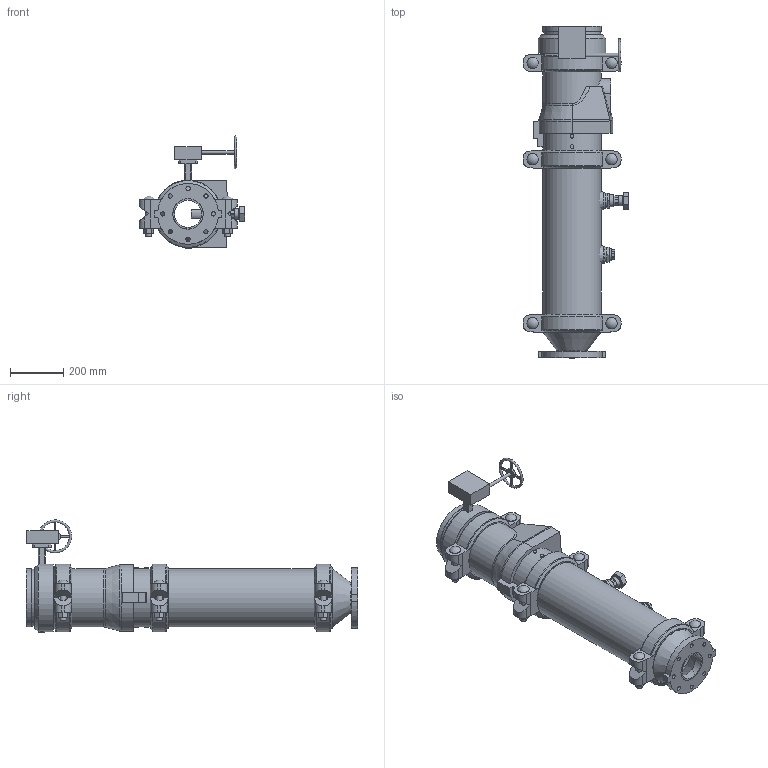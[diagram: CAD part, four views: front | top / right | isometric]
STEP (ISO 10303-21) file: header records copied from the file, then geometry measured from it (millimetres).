
FILE_DESCRIPTION(/* description */ ('VIC DVI PUMP DROP VERT S/380 (OGSxFLG) (S/924-1.25)','CAx-IF Rec.Pracs.---Representation and Presentation of Product Manufacturing Information (PMI)---4.0---2014-10-13'),/* implementation_level */ '2;1');
FILE_NAME(/* name */ 'C:\Users\Public\Documents\Victaulic.Temp\A765\Victaulic_IPS_Vertical DVI_CL 150_Series 380 (OGSxFLG)_924 (1.25)_08.0x04.0 (200x100).stp',/* time_stamp */ '2022-07-25T11:13:12+02:00',/* author */ ('Vjadhav'),/* organization */ ('Victaulic'),/* preprocessor_version */ 'ST-DEVELOPER v18',/* originating_system */ 'Autodesk Inventor 2020',/* authorisation */ '');
FILE_SCHEMA (('AP242_MANAGED_MODEL_BASED_3D_ENGINEERING_MIM_LF { 1 0 10303 442 1 1 4 }'));
Length unit declared in the file: inch
Products named in the file (9): 380_924 (1.25)-08.0x04.0; 741-04.0; 050-08.0x04.0; Pipe-08.0; 177N-08.0; 779-08.0; 923-04.0x0.75; 924-04.0x01.25; 761-08.0
Assembly tree (10 placements, depth 2):
  380_924 (1.25)-08.0x04.0
    741-04.0
    050-08.0x04.0
    177N-08.0  x3
    Pipe-08.0
    779-08.0
    923-04.0x0.75
    924-04.0x01.25
    761-08.0
Bounding box: 398.56 x 1249.43 x 422.39 mm (x, y, z)
Volume: 16708070.3 mm3; surface area: 2654565.5 mm2
Topology: 10 solids, 12 shells, 579 faces, 1540 edges, 1029 vertices
Faces by surface type: plane 350, cylinder 182, cone 20, torus 19, sphere 6, bspline 2
Full cylindrical faces by diameter (mm): 8.636 x4, 12.446 x1, 12.7 x1, 13.716 x4, 15.875 x8, 21.336 x1, 22.225 x6, 22.86 x1, 26.67 x2, 38.608 x1, 39.125 x1, 42.164 x1, 42.85 x6, 45.974 x4, 48.514 x1, 55.118 x1, 55.626 x2, 102.26 x1, 110.084 x1, 114.3 x3, 202.717 x4, 206.375 x3, 214.401 x7, 219.075 x19, 254 x1
Entity records: 13893 total; most frequent: CARTESIAN_POINT 2891, DIRECTION 2247, ORIENTED_EDGE 2076, EDGE_CURVE 1038, AXIS2_PLACEMENT_3D 853, VERTEX_POINT 701, LINE 541, VECTOR 541
